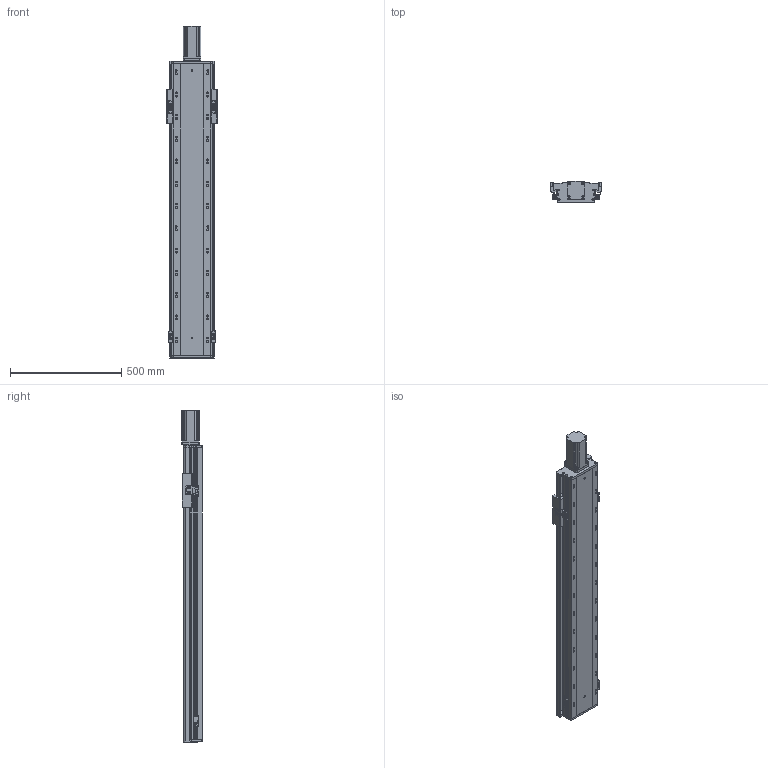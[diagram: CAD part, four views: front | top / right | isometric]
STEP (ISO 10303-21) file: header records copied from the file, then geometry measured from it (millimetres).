
FILE_DESCRIPTION (( 'STEP AP203' ), '1' );
FILE_NAME ('RY170FB-L2510-300-MK.SLDASM_1000.step', '2021-02-22T08:56:57', ( '盈信电脑' ), ( '东莞市道滘镇水果街19号' ), 'SwSTEP 2.0', 'SolidWorks 2012', '' );
FILE_SCHEMA (( 'CONFIG_CONTROL_DESIGN' ));
Length unit declared in the file: millimetre
Products named in the file (16): RY170FB-L2510-300-MK.SLDASM_1000; RY140-674嫖萇耀輸; RY140FB-674嫖萇覜茼え; RY140FB-覜茼え; 侂狟750W萇儂ㄗ80遺ㄘ; 覜茼ん674; 750W萇儂梓袧蛌諉啣; RY140直线电机感应器674光电安装座; RY170FB-300奻裔_1000; 滅袉蝶18-10; RY170FB-铝滑块(25丝杆）; RY170FB-綴裔啣; RY170FB-ヶ裔啣; RY170FB-300倰第菁釱-MK_1000; 滅袉蝶18-28
Assembly tree (20 placements, depth 3):
  RY170FB-L2510-300-MK.SLDASM_1000
    RY170FB-300倰第菁釱-MK_1000
    RY170FB-綴裔啣
    RY170FB-ヶ裔啣
    滅袉蝶18-28
    滅袉蝶18-10
    RY170FB-铝滑块(25丝杆）
    RY170FB-300奻裔_1000
    750W萇儂梓袧蛌諉啣
    侂狟750W萇儂ㄗ80遺ㄘ
    RY140-674嫖萇耀輸  x2
      覜茼ん674
      RY140直线电机感应器674光电安装座
    RY140FB-674嫖萇覜茼え
    RY140-674嫖萇耀輸  x2
      覜茼ん674
      RY140直线电机感应器674光电安装座
    RY140FB-覜茼え
Bounding box: 225 x 93.2 x 1489.5 mm (x, y, z)
Volume: 7857428.5 mm3; surface area: 2255466.5 mm2
Topology: 21 solids, 21 shells, 1745 faces, 5113 edges, 3278 vertices
Faces by surface type: cylinder 848, plane 761, cone 136
Entity records: 47217 total; most frequent: CARTESIAN_POINT 10858, ORIENTED_EDGE 7406, DIRECTION 7149, EDGE_CURVE 3703, AXIS2_PLACEMENT_3D 2617, VERTEX_POINT 2432, VECTOR 1915, LINE 1915
